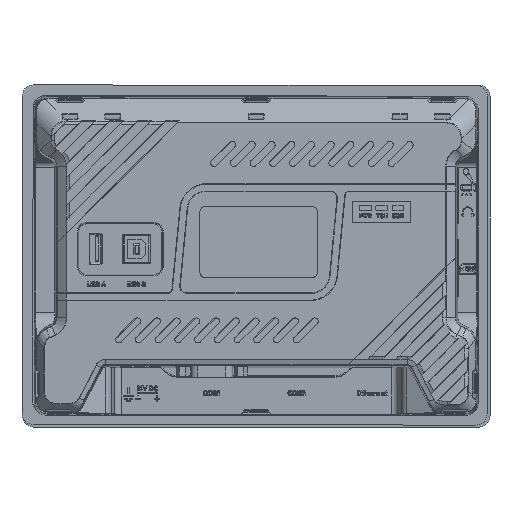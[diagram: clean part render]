
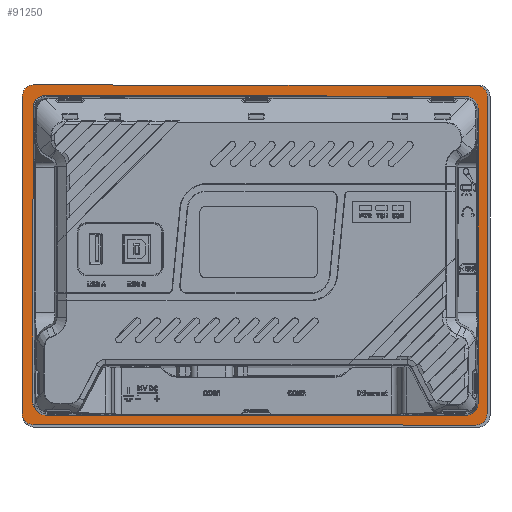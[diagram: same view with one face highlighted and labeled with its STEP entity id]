
A CAD part, front view. The second image highlights one B-rep face of the part: STEP entity #91250.
In plain terms, the highlighted planar face has unit normal (0, -1, 0).
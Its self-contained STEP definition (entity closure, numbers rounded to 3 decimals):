
#15641=CARTESIAN_POINT('',(94.72,-1.,68.664));
#15642=DIRECTION('',(0.,1.,0.));
#15643=DIRECTION('',(0.001,0.,1.));
#15644=AXIS2_PLACEMENT_3D('',#15641,#15642,#15643);
#15646=DIRECTION('',(-0.001,0.,-1.));
#15647=VECTOR('',#15646,136.6);
#15648=CARTESIAN_POINT('',(99.52,-1.,68.658));
#15649=LINE('',#15648,#15647);
#15650=CARTESIAN_POINT('',(94.565,-1.,-67.936));
#15651=DIRECTION('',(0.,1.,0.));
#15652=DIRECTION('',(1.,0.,-0.001));
#15653=AXIS2_PLACEMENT_3D('',#15650,#15651,#15652);
#15655=DIRECTION('',(-1.,0.,0.001));
#15656=VECTOR('',#15655,190.6);
#15657=CARTESIAN_POINT('',(94.559,-1.,-72.736));
#15658=LINE('',#15657,#15656);
#15659=CARTESIAN_POINT('',(-96.035,-1.,-67.72));
#15660=DIRECTION('',(0.,1.,0.));
#15661=DIRECTION('',(-0.001,0.,-1.));
#15662=AXIS2_PLACEMENT_3D('',#15659,#15660,#15661);
#15664=DIRECTION('',(0.001,0.,1.));
#15665=VECTOR('',#15664,136.6);
#15666=CARTESIAN_POINT('',(-100.835,-1.,-67.714));
#15667=LINE('',#15666,#15665);
#15668=CARTESIAN_POINT('',(-95.88,-1.,68.88));
#15669=DIRECTION('',(0.,1.,0.));
#15670=DIRECTION('',(-1.,0.,0.001));
#15671=AXIS2_PLACEMENT_3D('',#15668,#15669,#15670);
#15673=DIRECTION('',(1.,0.,-0.001));
#15674=VECTOR('',#15673,190.6);
#15675=CARTESIAN_POINT('',(-95.875,-1.,73.68));
#15676=LINE('',#15675,#15674);
#15677=DIRECTION('',(1.,0.,0.));
#15678=VECTOR('',#15677,180.936);
#15679=CARTESIAN_POINT('',(-90.468,-1.,
-68.465));
#15680=LINE('',#15679,#15678);
#15681=CARTESIAN_POINT('',(90.468,-1.,
-68.465));
#15682=CARTESIAN_POINT('',(90.916,-1.,
-68.465));
#15683=CARTESIAN_POINT('',(91.776,-1.,
-68.349));
#15684=CARTESIAN_POINT('',(92.999,-1.,
-67.844));
#15685=CARTESIAN_POINT('',(94.042,-1.,
-67.042));
#15686=CARTESIAN_POINT('',(94.844,-1.,
-66.));
#15687=CARTESIAN_POINT('',(95.349,-1.,
-64.776));
#15688=CARTESIAN_POINT('',(95.465,-1.,
-63.916));
#15689=CARTESIAN_POINT('',(95.465,-1.,
-63.468));
#15691=DIRECTION('',(0.,0.,1.));
#15692=VECTOR('',#15691,126.936);
#15693=CARTESIAN_POINT('',(95.465,-1.,
-63.468));
#15694=LINE('',#15693,#15692);
#15695=CARTESIAN_POINT('',(95.465,-1.,
63.468));
#15696=CARTESIAN_POINT('',(95.465,-1.,
63.927));
#15697=CARTESIAN_POINT('',(95.343,-1.,
64.807));
#15698=CARTESIAN_POINT('',(94.819,-1.,
66.046));
#15699=CARTESIAN_POINT('',(93.984,-1.,
67.101));
#15700=CARTESIAN_POINT('',(93.272,-1.,67.631));
#15701=CARTESIAN_POINT('',(92.869,-1.,67.851));
#15703=CARTESIAN_POINT('',(89.884,-1.,63.839));
#15704=DIRECTION('',(0.,-1.,0.));
#15705=DIRECTION('',(0.597,0.,0.802));
#15706=AXIS2_PLACEMENT_3D('',#15703,#15704,#15705);
#15708=CARTESIAN_POINT('',(-91.055,-1.,64.045));
#15709=DIRECTION('',(0.,-1.,0.));
#15710=DIRECTION('',(0.001,0.,1.));
#15711=AXIS2_PLACEMENT_3D('',#15708,#15709,#15710);
#15713=CARTESIAN_POINT('',(-91.2,-1.,-62.895));
#15714=DIRECTION('',(0.,-1.,0.));
#15715=DIRECTION('',(-1.,0.,0.001));
#15716=AXIS2_PLACEMENT_3D('',#15713,#15714,#15715);
#15718=CARTESIAN_POINT('',(-93.893,-1.,-67.108));
#15719=CARTESIAN_POINT('',(-93.412,-1.,-67.56));
#15720=CARTESIAN_POINT('',(-92.35,-1.,-68.214));
#15721=CARTESIAN_POINT('',(-91.129,-1.,-68.465));
#15722=CARTESIAN_POINT('',(-90.468,-1.,-68.465));
#32373=DIRECTION('',(0.001,0.,1.));
#32374=VECTOR('',#32373,126.94);
#32375=CARTESIAN_POINT('',(-96.2,-1.,-62.889));
#32376=LINE('',#32375,#32374);
#32400=DIRECTION('',(1.,0.,-0.001));
#32401=VECTOR('',#32400,180.94);
#32402=CARTESIAN_POINT('',(-91.05,-1.,69.045));
#32403=LINE('',#32402,#32401);
#54937=VERTEX_POINT('',#15718);
#54938=VERTEX_POINT('',#15722);
#54940=CARTESIAN_POINT('',(94.725,-1.,73.464));
#54941=CARTESIAN_POINT('',(99.52,-1.,68.658));
#54942=VERTEX_POINT('',#54940);
#54943=VERTEX_POINT('',#54941);
#54944=CARTESIAN_POINT('',(99.365,-1.,-67.941));
#54945=VERTEX_POINT('',#54944);
#54946=CARTESIAN_POINT('',(94.559,-1.,-72.736));
#54947=VERTEX_POINT('',#54946);
#54948=CARTESIAN_POINT('',(-96.041,-1.,-72.52));
#54949=VERTEX_POINT('',#54948);
#54950=CARTESIAN_POINT('',(-100.835,-1.,-67.714));
#54951=VERTEX_POINT('',#54950);
#54952=CARTESIAN_POINT('',(-100.68,-1.,68.886));
#54953=VERTEX_POINT('',#54952);
#54954=CARTESIAN_POINT('',(-95.875,-1.,73.68));
#54955=VERTEX_POINT('',#54954);
#54956=CARTESIAN_POINT('',(90.468,-1.,
-68.465));
#54957=VERTEX_POINT('',#54956);
#54958=VERTEX_POINT('',#15689);
#54959=CARTESIAN_POINT('',(95.465,-1.,
63.468));
#54960=VERTEX_POINT('',#54959);
#54961=VERTEX_POINT('',#15701);
#54962=CARTESIAN_POINT('',(89.89,-1.,68.839));
#54963=VERTEX_POINT('',#54962);
#54964=CARTESIAN_POINT('',(-91.05,-1.,69.045));
#54965=VERTEX_POINT('',#54964);
#54966=CARTESIAN_POINT('',(-96.055,-1.,64.051));
#54967=VERTEX_POINT('',#54966);
#54968=CARTESIAN_POINT('',(-96.2,-1.,-62.889));
#54969=VERTEX_POINT('',#54968);
#91206=CARTESIAN_POINT('',(-0.658,-1.,0.472));
#91207=DIRECTION('',(0.,-1.,0.));
#91208=DIRECTION('',(-1.,0.,0.001));
#91209=AXIS2_PLACEMENT_3D('',#91206,#91207,#91208);
#91210=PLANE('',#91209);
#91212=ORIENTED_EDGE('',*,*,#91211,.T.);
#91214=ORIENTED_EDGE('',*,*,#91213,.T.);
#91216=ORIENTED_EDGE('',*,*,#91215,.T.);
#91218=ORIENTED_EDGE('',*,*,#91217,.T.);
#91220=ORIENTED_EDGE('',*,*,#91219,.T.);
#91222=ORIENTED_EDGE('',*,*,#91221,.T.);
#91224=ORIENTED_EDGE('',*,*,#91223,.T.);
#91226=ORIENTED_EDGE('',*,*,#91225,.T.);
#91227=EDGE_LOOP('',(#91212,#91214,#91216,#91218,#91220,#91222,#91224,#91226));
#91228=FACE_OUTER_BOUND('',#91227,.F.);
#91230=ORIENTED_EDGE('',*,*,#91229,.T.);
#91232=ORIENTED_EDGE('',*,*,#91231,.T.);
#91234=ORIENTED_EDGE('',*,*,#91233,.T.);
#91236=ORIENTED_EDGE('',*,*,#91235,.T.);
#91238=ORIENTED_EDGE('',*,*,#91237,.T.);
#91240=ORIENTED_EDGE('',*,*,#91239,.F.);
#91242=ORIENTED_EDGE('',*,*,#91241,.T.);
#91244=ORIENTED_EDGE('',*,*,#91243,.F.);
#91246=ORIENTED_EDGE('',*,*,#91245,.T.);
#91247=ORIENTED_EDGE('',*,*,#91193,.T.);
#91248=EDGE_LOOP('',(#91230,#91232,#91234,#91236,#91238,#91240,#91242,#91244,
#91246,#91247));
#91249=FACE_BOUND('',#91248,.F.);
#91250=ADVANCED_FACE('',(#91228,#91249),#91210,.T.);
#15645=CIRCLE('',#15644,4.8);
#15654=CIRCLE('',#15653,4.8);
#15663=CIRCLE('',#15662,4.8);
#15672=CIRCLE('',#15671,4.8);
#15690=B_SPLINE_CURVE_WITH_KNOTS('',3,(#15681,#15682,#15683,#15684,#15685,
#15686,#15687,#15688,#15689),.UNSPECIFIED.,.F.,.F.,(4,1,1,1,1,1,4),(0.,
0.167,0.333,0.5,0.667,0.833,
1.),.UNSPECIFIED.);
#15702=B_SPLINE_CURVE_WITH_KNOTS('',3,(#15695,#15696,#15697,#15698,#15699,
#15700,#15701),.UNSPECIFIED.,.F.,.F.,(4,1,1,1,4),(0.,0.25,0.5,0.75,
1.),.UNSPECIFIED.);
#15707=CIRCLE('',#15706,5.);
#15712=CIRCLE('',#15711,5.);
#15717=CIRCLE('',#15716,5.);
#15723=B_SPLINE_CURVE_WITH_KNOTS('',3,(#15718,#15719,#15720,#15721,#15722),
.UNSPECIFIED.,.F.,.F.,(4,1,4),(0.,0.5,1.),.UNSPECIFIED.);
#91193=EDGE_CURVE('',#54937,#54938,#15723,.T.);
#91211=EDGE_CURVE('',#54942,#54943,#15645,.T.);
#91213=EDGE_CURVE('',#54943,#54945,#15649,.T.);
#91215=EDGE_CURVE('',#54945,#54947,#15654,.T.);
#91217=EDGE_CURVE('',#54947,#54949,#15658,.T.);
#91219=EDGE_CURVE('',#54949,#54951,#15663,.T.);
#91221=EDGE_CURVE('',#54951,#54953,#15667,.T.);
#91223=EDGE_CURVE('',#54953,#54955,#15672,.T.);
#91225=EDGE_CURVE('',#54955,#54942,#15676,.T.);
#91229=EDGE_CURVE('',#54938,#54957,#15680,.T.);
#91231=EDGE_CURVE('',#54957,#54958,#15690,.T.);
#91233=EDGE_CURVE('',#54958,#54960,#15694,.T.);
#91235=EDGE_CURVE('',#54960,#54961,#15702,.T.);
#91237=EDGE_CURVE('',#54961,#54963,#15707,.T.);
#91239=EDGE_CURVE('',#54965,#54963,#32403,.T.);
#91241=EDGE_CURVE('',#54965,#54967,#15712,.T.);
#91243=EDGE_CURVE('',#54969,#54967,#32376,.T.);
#91245=EDGE_CURVE('',#54969,#54937,#15717,.T.);
